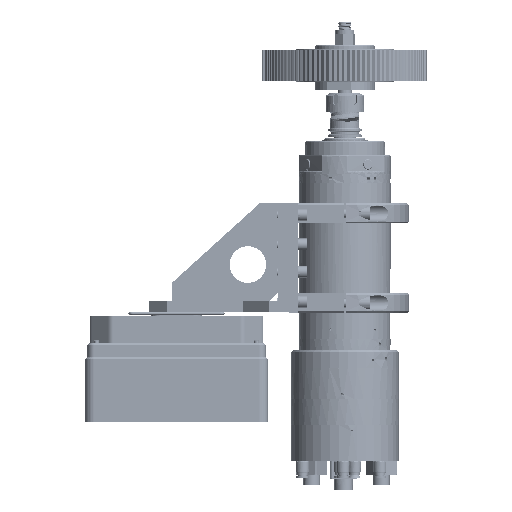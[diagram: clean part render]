
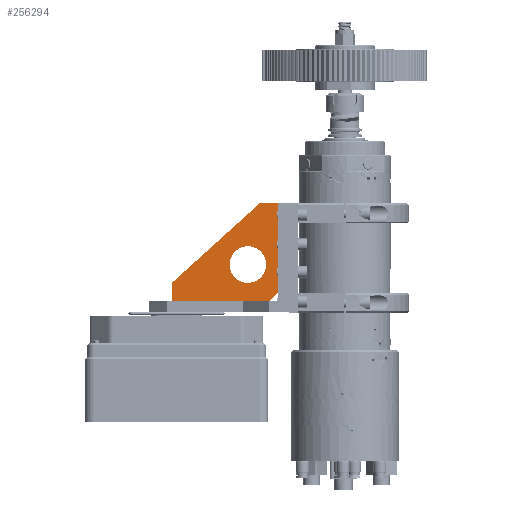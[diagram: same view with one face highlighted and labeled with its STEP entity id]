
A CAD part, left-side view. The second image highlights one B-rep face of the part: STEP entity #256294.
In plain terms, the highlighted planar face has unit normal (-1, 0, 0) as drawn and (0, 0, -1) by its records, which use the part's own axes.
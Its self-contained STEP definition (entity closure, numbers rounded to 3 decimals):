
#2923 = CARTESIAN_POINT ( 'NONE',  ( -10., 7., -5. ) ) ;
#3839 = EDGE_CURVE ( 'NONE', #14732, #247875, #222739, .T. ) ;
#7199 = CARTESIAN_POINT ( 'NONE',  ( 0., 17., -5. ) ) ;
#7787 = EDGE_CURVE ( 'NONE', #84155, #157029, #182782, .T. ) ;
#14028 = CARTESIAN_POINT ( 'NONE',  ( -107., 7., -5. ) ) ;
#14732 = VERTEX_POINT ( 'NONE', #117606 ) ;
#16362 = CARTESIAN_POINT ( 'NONE',  ( -20., 40., -5. ) ) ;
#17907 = DIRECTION ( 'NONE',  ( 0., 1., 0. ) ) ;
#29407 = DIRECTION ( 'NONE',  ( 1., 0., 0. ) ) ;
#31487 = CARTESIAN_POINT ( 'NONE',  ( -107., 27., -5. ) ) ;
#31867 = CARTESIAN_POINT ( 'NONE',  ( -20., 123., -5. ) ) ;
#36092 = ORIENTED_EDGE ( 'NONE', *, *, #236164, .F. ) ;
#36389 = VECTOR ( 'NONE', #305413, 1000. ) ;
#39421 = EDGE_CURVE ( 'NONE', #188662, #288056, #237940, .T. ) ;
#41298 = DIRECTION ( 'NONE',  ( 1., 0., 0. ) ) ;
#52821 = EDGE_CURVE ( 'NONE', #288056, #84155, #227483, .T. ) ;
#54372 = ORIENTED_EDGE ( 'NONE', *, *, #69890, .F. ) ;
#54456 = VECTOR ( 'NONE', #41298, 1000. ) ;
#56438 = CARTESIAN_POINT ( 'NONE',  ( 0., 0., -5. ) ) ;
#57986 = FACE_BOUND ( 'NONE', #60334, .T. ) ;
#60334 = EDGE_LOOP ( 'NONE', ( #79409, #167557 ) ) ;
#69890 = EDGE_CURVE ( 'NONE', #157029, #14732, #203803, .T. ) ;
#74529 = ORIENTED_EDGE ( 'NONE', *, *, #3839, .F. ) ;
#78592 = DIRECTION ( 'NONE',  ( 0., 0., 1. ) ) ;
#78632 = VECTOR ( 'NONE', #17907, 1000. ) ;
#79409 = ORIENTED_EDGE ( 'NONE', *, *, #142691, .T. ) ;
#84155 = VERTEX_POINT ( 'NONE', #31487 ) ;
#88038 = DIRECTION ( 'NONE',  ( -1., 0., 0. ) ) ;
#96896 = CARTESIAN_POINT ( 'NONE',  ( -107., 7., -5. ) ) ;
#97349 = VECTOR ( 'NONE', #88038, 1000. ) ;
#98352 = DIRECTION ( 'NONE',  ( 0.707, 0.707, 0. ) ) ;
#110602 = VECTOR ( 'NONE', #98352, 1000. ) ;
#116949 = CARTESIAN_POINT ( 'NONE',  ( -60., 40., -5. ) ) ;
#117606 = CARTESIAN_POINT ( 'NONE',  ( -10., 7., -5. ) ) ;
#124902 = PLANE ( 'NONE',  #200239 ) ;
#142691 = EDGE_CURVE ( 'NONE', #160800, #299922, #268491, .T. ) ;
#151825 = DIRECTION ( 'NONE',  ( 1., 0., 0. ) ) ;
#157029 = VERTEX_POINT ( 'NONE', #96896 ) ;
#160800 = VERTEX_POINT ( 'NONE', #16362 ) ;
#162719 = LINE ( 'NONE', #236264, #78632 ) ;
#164052 = CARTESIAN_POINT ( 'NONE',  ( -40., 40., -5. ) ) ;
#167557 = ORIENTED_EDGE ( 'NONE', *, *, #228777, .T. ) ;
#176618 = ORIENTED_EDGE ( 'NONE', *, *, #39421, .F. ) ;
#177287 = FACE_OUTER_BOUND ( 'NONE', #206971, .T. ) ;
#178901 = DIRECTION ( 'NONE',  ( 0., 0., 1. ) ) ;
#182782 = LINE ( 'NONE', #14028, #224646 ) ;
#186059 = CARTESIAN_POINT ( 'NONE',  ( -15., 7., -5. ) ) ;
#186828 = AXIS2_PLACEMENT_3D ( 'NONE', #223701, #78592, #151825 ) ;
#188662 = VERTEX_POINT ( 'NONE', #300900 ) ;
#196805 = CIRCLE ( 'NONE', #247697, 20. ) ;
#200239 = AXIS2_PLACEMENT_3D ( 'NONE', #56438, #178901, #29407 ) ;
#202360 = ORIENTED_EDGE ( 'NONE', *, *, #52821, .F. ) ;
#203803 = LINE ( 'NONE', #186059, #54456 ) ;
#206971 = EDGE_LOOP ( 'NONE', ( #202360, #176618, #36092, #74529, #54372, #260588 ) ) ;
#209199 = CARTESIAN_POINT ( 'NONE',  ( 0., 123., -5. ) ) ;
#213585 = DIRECTION ( 'NONE',  ( 0., 0., 1. ) ) ;
#222739 = LINE ( 'NONE', #2923, #110602 ) ;
#223701 = CARTESIAN_POINT ( 'NONE',  ( -40., 40., -5. ) ) ;
#224646 = VECTOR ( 'NONE', #256271, 1000. ) ;
#227483 = LINE ( 'NONE', #281542, #36389 ) ;
#228777 = EDGE_CURVE ( 'NONE', #299922, #160800, #196805, .T. ) ;
#232886 = DIRECTION ( 'NONE',  ( 1., 0., 0. ) ) ;
#236164 = EDGE_CURVE ( 'NONE', #247875, #188662, #162719, .T. ) ;
#236264 = CARTESIAN_POINT ( 'NONE',  ( 0., 123., -5. ) ) ;
#237940 = LINE ( 'NONE', #209199, #97349 ) ;
#247697 = AXIS2_PLACEMENT_3D ( 'NONE', #164052, #213585, #232886 ) ;
#247875 = VERTEX_POINT ( 'NONE', #7199 ) ;
#256271 = DIRECTION ( 'NONE',  ( 0., -1., 0. ) ) ;
#256294 = ADVANCED_FACE ( 'NONE', ( #57986, #177287 ), #124902, .F. ) ;
#260588 = ORIENTED_EDGE ( 'NONE', *, *, #7787, .F. ) ;
#268491 = CIRCLE ( 'NONE', #186828, 20. ) ;
#281542 = CARTESIAN_POINT ( 'NONE',  ( -20., 123., -5. ) ) ;
#288056 = VERTEX_POINT ( 'NONE', #31867 ) ;
#299922 = VERTEX_POINT ( 'NONE', #116949 ) ;
#300900 = CARTESIAN_POINT ( 'NONE',  ( 0., 123., -5. ) ) ;
#305413 = DIRECTION ( 'NONE',  ( -0.672, -0.741, 0. ) ) ;
